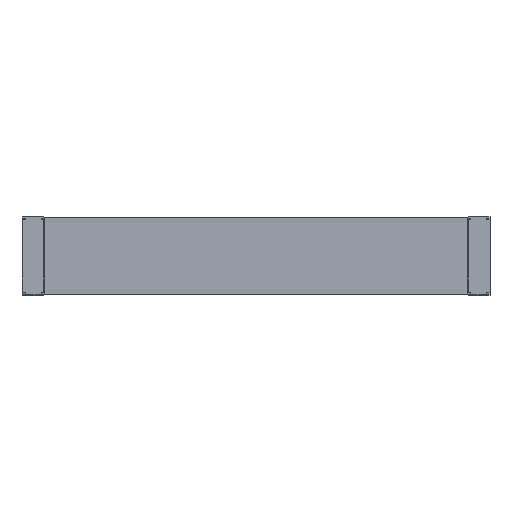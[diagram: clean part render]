
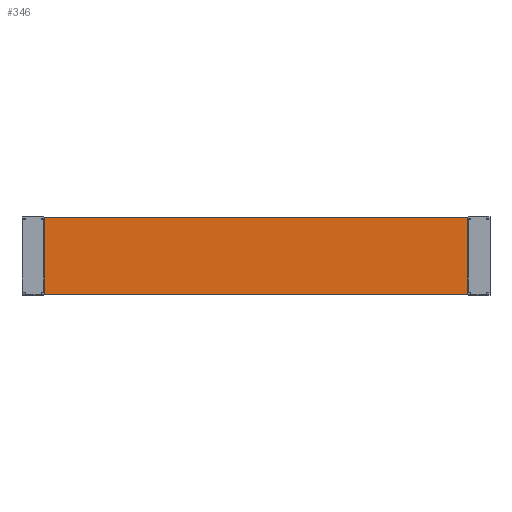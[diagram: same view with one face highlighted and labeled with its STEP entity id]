
A CAD part, top view. The second image highlights one B-rep face of the part: STEP entity #346.
In plain terms, the highlighted planar face has unit normal (0, 0, 1) as drawn and (0, 0, -1) by its records, which use the part's own axes.
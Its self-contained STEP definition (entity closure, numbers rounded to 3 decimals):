
#346 = ADVANCED_FACE( '', ( #649 ), #650, .F. );
#649 = FACE_OUTER_BOUND( '', #919, .T. );
#650 = PLANE( '', #920 );
#919 = EDGE_LOOP( '', ( #1668, #1669, #1670, #1671 ) );
#920 = AXIS2_PLACEMENT_3D( '', #1672, #1673, #1674 );
#1668 = ORIENTED_EDGE( '', *, *, #1733, .T. );
#1669 = ORIENTED_EDGE( '', *, *, #1931, .F. );
#1670 = ORIENTED_EDGE( '', *, *, #1774, .F. );
#1671 = ORIENTED_EDGE( '', *, *, #1900, .T. );
#1672 = CARTESIAN_POINT( '', ( 271.5, -49.5, 0. ) );
#1673 = DIRECTION( '', ( 0., 0., 1. ) );
#1674 = DIRECTION( '', ( 1., 0., 0. ) );
#1733 = EDGE_CURVE( '', #2075, #2073, #2076, .T. );
#1774 = EDGE_CURVE( '', #2144, #2137, #2146, .T. );
#1900 = EDGE_CURVE( '', #2144, #2075, #2330, .T. );
#1931 = EDGE_CURVE( '', #2137, #2073, #2366, .T. );
#2073 = VERTEX_POINT( '', #2555 );
#2075 = VERTEX_POINT( '', #2558 );
#2076 = LINE( '', #2559, #2560 );
#2137 = VERTEX_POINT( '', #2649 );
#2144 = VERTEX_POINT( '', #2660 );
#2146 = LINE( '', #2663, #2664 );
#2330 = LINE( '', #2938, #2939 );
#2366 = LINE( '', #2991, #2992 );
#2555 = CARTESIAN_POINT( '', ( -271.5, 49.5, 0. ) );
#2558 = CARTESIAN_POINT( '', ( -271.5, -49.5, 0. ) );
#2559 = CARTESIAN_POINT( '', ( -271.5, -49.5, 0. ) );
#2560 = VECTOR( '', #3102, 1000. );
#2649 = CARTESIAN_POINT( '', ( 271.5, 49.5, 0. ) );
#2660 = CARTESIAN_POINT( '', ( 271.5, -49.5, 0. ) );
#2663 = CARTESIAN_POINT( '', ( 271.5, -49.5, 0. ) );
#2664 = VECTOR( '', #3139, 1000. );
#2938 = CARTESIAN_POINT( '', ( 271.5, -49.5, 0. ) );
#2939 = VECTOR( '', #3242, 1000. );
#2991 = CARTESIAN_POINT( '', ( 271.5, 49.5, 0. ) );
#2992 = VECTOR( '', #3265, 1000. );
#3102 = DIRECTION( '', ( 0., 1., 0. ) );
#3139 = DIRECTION( '', ( 0., 1., 0. ) );
#3242 = DIRECTION( '', ( -1., 0., 0. ) );
#3265 = DIRECTION( '', ( -1., 0., 0. ) );
